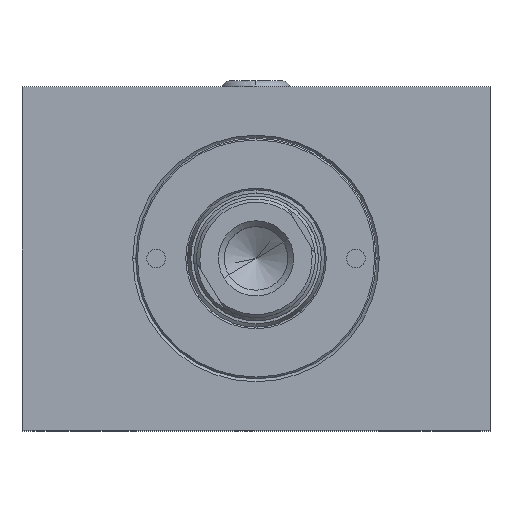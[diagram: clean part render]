
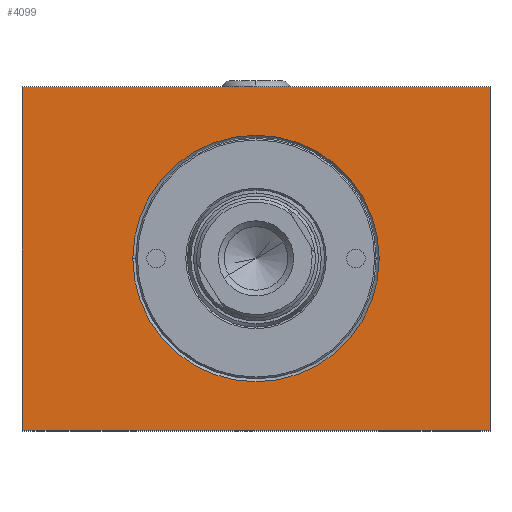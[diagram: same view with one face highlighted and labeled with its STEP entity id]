
A CAD part, top view. The second image highlights one B-rep face of the part: STEP entity #4099.
In plain terms, the highlighted planar face has unit normal (0, 0, 1).
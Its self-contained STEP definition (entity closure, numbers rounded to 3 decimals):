
#44 = AXIS2_PLACEMENT_3D ( 'NONE', #7660, #12585, #3453 ) ;
#196 = EDGE_CURVE ( 'NONE', #10132, #9013, #4790, .T. ) ;
#274 = FACE_BOUND ( 'NONE', #11893, .T. ) ;
#596 = VERTEX_POINT ( 'NONE', #10536 ) ;
#774 = ORIENTED_EDGE ( 'NONE', *, *, #12477, .T. ) ;
#861 = ORIENTED_EDGE ( 'NONE', *, *, #7003, .T. ) ;
#989 = CIRCLE ( 'NONE', #10328, 19.75 ) ;
#1176 = PLANE ( 'NONE',  #8137 ) ;
#1286 = LINE ( 'NONE', #8622, #10250 ) ;
#1643 = EDGE_CURVE ( 'NONE', #596, #10132, #2883, .T. ) ;
#2135 = CARTESIAN_POINT ( 'NONE',  ( 0., 0., 95. ) ) ;
#2280 = EDGE_CURVE ( 'NONE', #9013, #9395, #1286, .T. ) ;
#2883 = LINE ( 'NONE', #2135, #3980 ) ;
#2896 = CARTESIAN_POINT ( 'NONE',  ( 0., 55., 95. ) ) ;
#3453 = DIRECTION ( 'NONE',  ( -1., 0., 0. ) ) ;
#3748 = ORIENTED_EDGE ( 'NONE', *, *, #1643, .T. ) ;
#3912 = DIRECTION ( 'NONE',  ( -1., 0., 0. ) ) ;
#3980 = VECTOR ( 'NONE', #9233, 1000. ) ;
#4004 = ORIENTED_EDGE ( 'NONE', *, *, #196, .T. ) ;
#4099 = ADVANCED_FACE ( 'NONE', ( #274, #10483 ), #1176, .F. ) ;
#4137 = CARTESIAN_POINT ( 'NONE',  ( 0., 0., 95. ) ) ;
#4659 = CARTESIAN_POINT ( 'NONE',  ( 57.25, 27.5, 95. ) ) ;
#4790 = LINE ( 'NONE', #6521, #12026 ) ;
#4849 = DIRECTION ( 'NONE',  ( 0., 0., -1. ) ) ;
#5196 = CARTESIAN_POINT ( 'NONE',  ( 0., 0., 95. ) ) ;
#5285 = DIRECTION ( 'NONE',  ( -1., 0., 0. ) ) ;
#6234 = DIRECTION ( 'NONE',  ( 0., 0., -1. ) ) ;
#6521 = CARTESIAN_POINT ( 'NONE',  ( 0., 0., 95. ) ) ;
#6672 = DIRECTION ( 'NONE',  ( 0., 1., 0. ) ) ;
#6996 = EDGE_CURVE ( 'NONE', #8680, #11734, #10277, .T. ) ;
#7003 = EDGE_CURVE ( 'NONE', #11734, #8680, #989, .T. ) ;
#7660 = CARTESIAN_POINT ( 'NONE',  ( 37.5, 27.5, 95. ) ) ;
#7978 = CARTESIAN_POINT ( 'NONE',  ( 37.5, 27.5, 95. ) ) ;
#8137 = AXIS2_PLACEMENT_3D ( 'NONE', #4137, #6234, #5285 ) ;
#8622 = CARTESIAN_POINT ( 'NONE',  ( 75., 0., 95. ) ) ;
#8680 = VERTEX_POINT ( 'NONE', #12170 ) ;
#9013 = VERTEX_POINT ( 'NONE', #10081 ) ;
#9233 = DIRECTION ( 'NONE',  ( 0., -1., 0. ) ) ;
#9261 = CARTESIAN_POINT ( 'NONE',  ( 75., 55., 95. ) ) ;
#9395 = VERTEX_POINT ( 'NONE', #9261 ) ;
#9475 = DIRECTION ( 'NONE',  ( 1., 0., 0. ) ) ;
#9592 = ORIENTED_EDGE ( 'NONE', *, *, #2280, .T. ) ;
#9666 = LINE ( 'NONE', #2896, #12020 ) ;
#10081 = CARTESIAN_POINT ( 'NONE',  ( 75., 0., 95. ) ) ;
#10132 = VERTEX_POINT ( 'NONE', #5196 ) ;
#10250 = VECTOR ( 'NONE', #6672, 1000. ) ;
#10277 = CIRCLE ( 'NONE', #44, 19.75 ) ;
#10328 = AXIS2_PLACEMENT_3D ( 'NONE', #7978, #4849, #11898 ) ;
#10483 = FACE_OUTER_BOUND ( 'NONE', #11248, .T. ) ;
#10536 = CARTESIAN_POINT ( 'NONE',  ( 0., 55., 95. ) ) ;
#11248 = EDGE_LOOP ( 'NONE', ( #3748, #4004, #9592, #774 ) ) ;
#11734 = VERTEX_POINT ( 'NONE', #4659 ) ;
#11893 = EDGE_LOOP ( 'NONE', ( #861, #12998 ) ) ;
#11898 = DIRECTION ( 'NONE',  ( -1., 0., 0. ) ) ;
#12020 = VECTOR ( 'NONE', #3912, 1000. ) ;
#12026 = VECTOR ( 'NONE', #9475, 1000. ) ;
#12170 = CARTESIAN_POINT ( 'NONE',  ( 17.75, 27.5, 95. ) ) ;
#12477 = EDGE_CURVE ( 'NONE', #9395, #596, #9666, .T. ) ;
#12585 = DIRECTION ( 'NONE',  ( 0., 0., -1. ) ) ;
#12998 = ORIENTED_EDGE ( 'NONE', *, *, #6996, .T. ) ;
